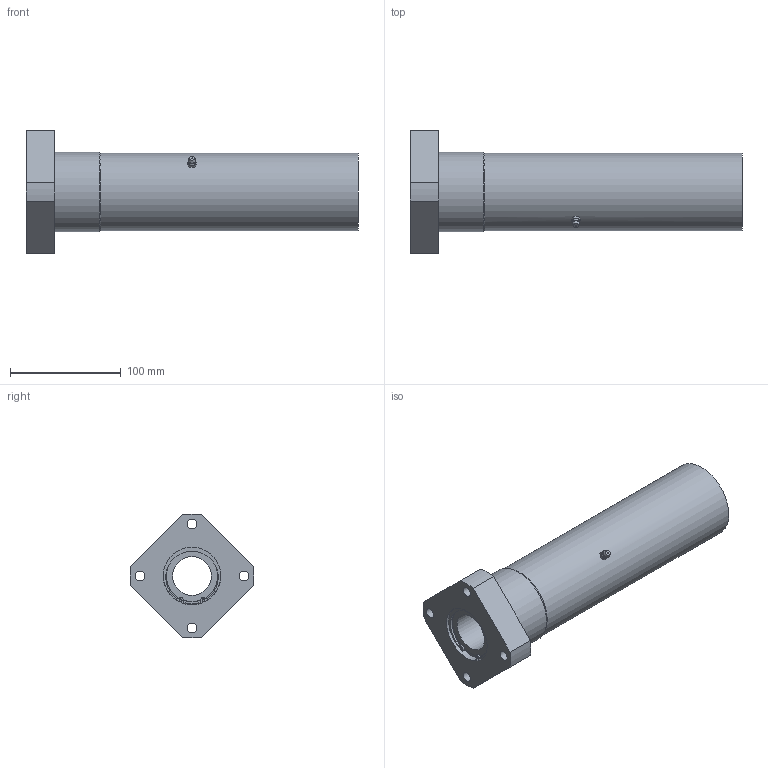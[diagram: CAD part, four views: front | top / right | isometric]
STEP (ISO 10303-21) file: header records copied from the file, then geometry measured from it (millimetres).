
FILE_DESCRIPTION((''),'2;1');
FILE_NAME('D:\製品 (図面)\カタログ用3D\リニアベアリング関連(改)\STEP形式\LFWL\LFWL35B.stp','2010-01-22T16:35:59',('Tsuchiya'),(''),'Autodesk Inventor 10','Autodesk Inventor 10','');
FILE_SCHEMA(('AUTOMOTIVE_DESIGN { 1 0 10303 214 1 1 1 1 }'));
Length unit declared in the file: millimetre
Products named in the file (1): LFWL35B
Bounding box: 300 x 111.86 x 111.86 mm (x, y, z)
Volume: 960299.3 mm3; surface area: 129065.4 mm2
Topology: 1 solids, 7 shells, 114 faces, 286 edges, 177 vertices
Faces by surface type: bspline 36, plane 35, cylinder 31, cone 8, sphere 2, torus 2
Full cylindrical faces by diameter (mm): 2.5 x2, 9 x4, 35 x2, 46.4 x2, 49 x2, 52 x8, 70 x1, 72 x1
Entity records: 3503 total; most frequent: CARTESIAN_POINT 999, DIRECTION 534, ORIENTED_EDGE 452, AXIS2_PLACEMENT_3D 241, EDGE_CURVE 226, EDGE_LOOP 188, VERTEX_POINT 158, CIRCLE 158
